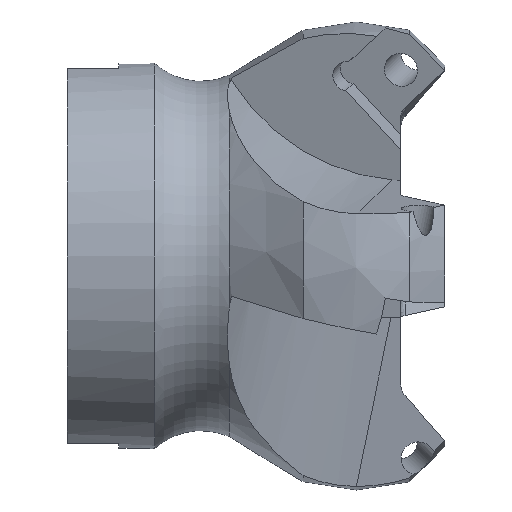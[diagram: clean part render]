
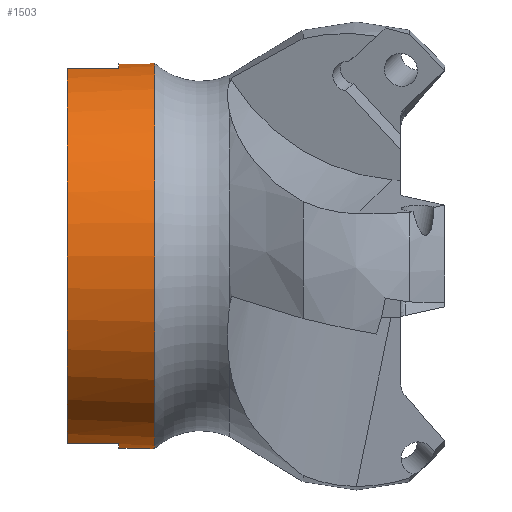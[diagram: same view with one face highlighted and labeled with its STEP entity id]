
A CAD part, left-side view. The second image highlights one B-rep face of the part: STEP entity #1503.
In plain terms, the highlighted cylindrical face has radius 24 mm (diameter 48 mm), a full revolution.
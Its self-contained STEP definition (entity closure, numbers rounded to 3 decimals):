
#126=CYLINDRICAL_SURFACE('',#1675,24.);
#199=LINE('',#2849,#279);
#204=LINE('',#2870,#284);
#207=LINE('',#2878,#287);
#211=LINE('',#2895,#291);
#213=LINE('',#2915,#293);
#279=VECTOR('',#2003,10.);
#284=VECTOR('',#2016,10.);
#287=VECTOR('',#2021,10.);
#291=VECTOR('',#2027,10.);
#293=VECTOR('',#2061,24.);
#401=FACE_OUTER_BOUND('',#481,.T.);
#481=EDGE_LOOP('',(#1386,#1387,#1388,#1389,#1390,#1391,#1392,#1393,#1394,
#1395,#1396,#1397,#1398,#1399));
#523=CIRCLE('',#1613,24.);
#530=CIRCLE('',#1620,24.);
#531=CIRCLE('',#1621,24.);
#546=CIRCLE('',#1656,24.);
#548=CIRCLE('',#1662,24.);
#554=CIRCLE('',#1671,24.);
#555=CIRCLE('',#1673,24.);
#556=CIRCLE('',#1674,24.);
#672=VERTEX_POINT('',#2652);
#673=VERTEX_POINT('',#2653);
#677=VERTEX_POINT('',#2668);
#696=VERTEX_POINT('',#2846);
#697=VERTEX_POINT('',#2848);
#700=VERTEX_POINT('',#2858);
#703=VERTEX_POINT('',#2868);
#706=VERTEX_POINT('',#2875);
#707=VERTEX_POINT('',#2877);
#712=VERTEX_POINT('',#2892);
#713=VERTEX_POINT('',#2894);
#715=VERTEX_POINT('',#2911);
#870=EDGE_CURVE('',#672,#673,#523,.T.);
#878=EDGE_CURVE('',#673,#677,#530,.T.);
#879=EDGE_CURVE('',#677,#672,#531,.T.);
#918=EDGE_CURVE('',#697,#696,#199,.T.);
#923=EDGE_CURVE('',#696,#700,#546,.T.);
#927=EDGE_CURVE('',#700,#703,#204,.T.);
#930=EDGE_CURVE('',#707,#706,#207,.T.);
#936=EDGE_CURVE('',#713,#712,#211,.T.);
#939=EDGE_CURVE('',#706,#713,#548,.T.);
#945=EDGE_CURVE('',#712,#697,#554,.T.);
#946=EDGE_CURVE('',#715,#707,#555,.T.);
#947=EDGE_CURVE('',#703,#715,#556,.T.);
#948=EDGE_CURVE('',#677,#715,#213,.T.);
#1386=ORIENTED_EDGE('',*,*,#870,.F.);
#1387=ORIENTED_EDGE('',*,*,#879,.F.);
#1388=ORIENTED_EDGE('',*,*,#948,.T.);
#1389=ORIENTED_EDGE('',*,*,#946,.T.);
#1390=ORIENTED_EDGE('',*,*,#930,.T.);
#1391=ORIENTED_EDGE('',*,*,#939,.T.);
#1392=ORIENTED_EDGE('',*,*,#936,.T.);
#1393=ORIENTED_EDGE('',*,*,#945,.T.);
#1394=ORIENTED_EDGE('',*,*,#918,.T.);
#1395=ORIENTED_EDGE('',*,*,#923,.T.);
#1396=ORIENTED_EDGE('',*,*,#927,.T.);
#1397=ORIENTED_EDGE('',*,*,#947,.T.);
#1398=ORIENTED_EDGE('',*,*,#948,.F.);
#1399=ORIENTED_EDGE('',*,*,#878,.F.);
#1503=ADVANCED_FACE('',(#401),#126,.T.);
#1613=AXIS2_PLACEMENT_3D('',#2654,#1908,#1909);
#1620=AXIS2_PLACEMENT_3D('',#2669,#1922,#1923);
#1621=AXIS2_PLACEMENT_3D('',#2670,#1924,#1925);
#1656=AXIS2_PLACEMENT_3D('',#2860,#2010,#2011);
#1662=AXIS2_PLACEMENT_3D('',#2899,#2033,#2034);
#1671=AXIS2_PLACEMENT_3D('',#2909,#2051,#2052);
#1673=AXIS2_PLACEMENT_3D('',#2912,#2055,#2056);
#1674=AXIS2_PLACEMENT_3D('',#2913,#2057,#2058);
#1675=AXIS2_PLACEMENT_3D('',#2914,#2059,#2060);
#1908=DIRECTION('center_axis',(0.,-1.,0.));
#1909=DIRECTION('ref_axis',(1.,0.,0.));
#1922=DIRECTION('center_axis',(0.,-1.,0.));
#1923=DIRECTION('ref_axis',(1.,0.,0.));
#1924=DIRECTION('center_axis',(0.,-1.,0.));
#1925=DIRECTION('ref_axis',(1.,0.,0.));
#2003=DIRECTION('',(0.,-1.,0.));
#2010=DIRECTION('center_axis',(0.,-1.,0.));
#2011=DIRECTION('ref_axis',(1.,0.,0.));
#2016=DIRECTION('',(0.,1.,0.));
#2021=DIRECTION('',(0.,-1.,0.));
#2027=DIRECTION('',(0.,1.,0.));
#2033=DIRECTION('center_axis',(0.,-1.,0.));
#2034=DIRECTION('ref_axis',(1.,0.,0.));
#2051=DIRECTION('center_axis',(0.,-1.,0.));
#2052=DIRECTION('ref_axis',(1.,0.,0.));
#2055=DIRECTION('center_axis',(0.,-1.,0.));
#2056=DIRECTION('ref_axis',(1.,0.,0.));
#2057=DIRECTION('center_axis',(0.,-1.,0.));
#2058=DIRECTION('ref_axis',(1.,0.,0.));
#2059=DIRECTION('center_axis',(0.,-1.,0.));
#2060=DIRECTION('ref_axis',(1.,0.,0.));
#2061=DIRECTION('',(0.,1.,0.));
#2652=CARTESIAN_POINT('',(24.,36.119,0.));
#2653=CARTESIAN_POINT('',(0.,36.119,24.));
#2654=CARTESIAN_POINT('Origin',(0.,36.119,0.));
#2668=CARTESIAN_POINT('',(-24.,36.119,0.));
#2669=CARTESIAN_POINT('Origin',(0.,36.119,0.));
#2670=CARTESIAN_POINT('Origin',(0.,36.119,0.));
#2846=CARTESIAN_POINT('',(5.25,40.6,23.419));
#2848=CARTESIAN_POINT('',(5.25,47.,23.419));
#2849=CARTESIAN_POINT('',(5.25,41.56,23.419));
#2858=CARTESIAN_POINT('',(-5.25,40.6,23.419));
#2860=CARTESIAN_POINT('Origin',(0.,40.6,0.));
#2868=CARTESIAN_POINT('',(-5.25,47.,23.419));
#2870=CARTESIAN_POINT('',(-5.25,41.56,23.419));
#2875=CARTESIAN_POINT('',(-5.25,40.6,-23.419));
#2877=CARTESIAN_POINT('',(-5.25,47.,-23.419));
#2878=CARTESIAN_POINT('',(-5.25,41.56,-23.419));
#2892=CARTESIAN_POINT('',(5.25,47.,-23.419));
#2894=CARTESIAN_POINT('',(5.25,40.6,-23.419));
#2895=CARTESIAN_POINT('',(5.25,41.56,-23.419));
#2899=CARTESIAN_POINT('Origin',(0.,40.6,0.));
#2909=CARTESIAN_POINT('Origin',(0.,47.,0.));
#2911=CARTESIAN_POINT('',(-24.,47.,0.));
#2912=CARTESIAN_POINT('Origin',(0.,47.,0.));
#2913=CARTESIAN_POINT('Origin',(0.,47.,0.));
#2914=CARTESIAN_POINT('Origin',(0.,41.56,0.));
#2915=CARTESIAN_POINT('',(-24.,41.56,0.));
